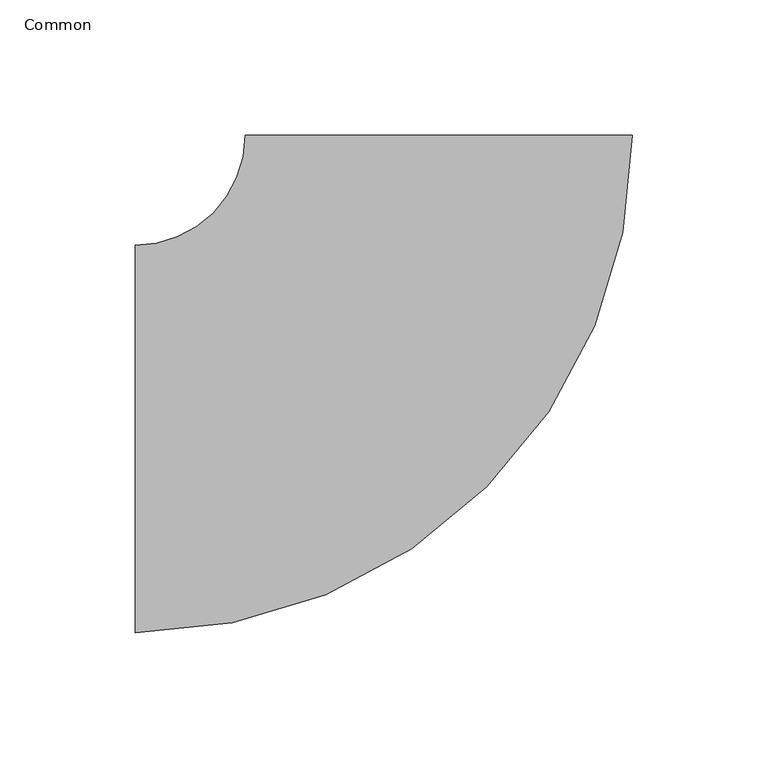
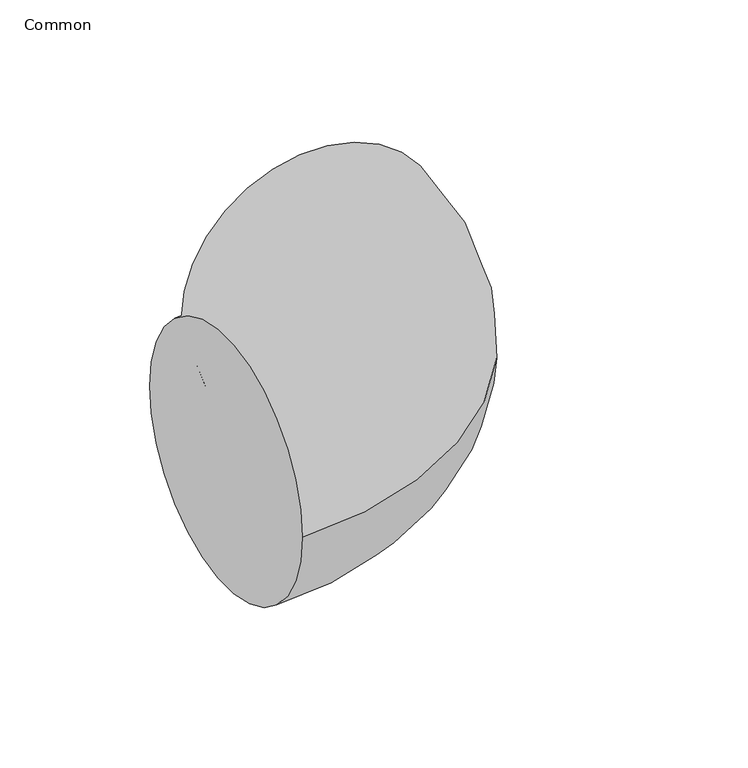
"""IFC4 building model written with IfcOpenShell, lengths in millimetres: pipe fitting geometry, 011_エルボ : Common."""

from ifc_helpers import new_model, si_unit, point, frame, origin, place, context, project, spatial, circle_curve, ellipse_curve, trimmed, source, transform, mapped, element, save
from ifc_brep_helpers import plane_surface, revolved_surface, advanced_brep


def common_a5969855(model_context):
    return source(origin(), model_context, "Body", "AdvancedBrep", [
        advanced_brep(
        [(-112.0, -71.5, 0.0), (-112.0, 71.5, 0.0), (71.5, 112.0, 0.0), (-71.5, 112.0, 0.0)],
        [
            (0, 1, circle_curve(frame((-112.0, 0.0, 0.0), z_axis=(-1.0, 0.0, 0.0), x_axis=(0.0, 1.0, 0.0)), 71.5)),
            (1, 0, circle_curve(frame((-112.0, 0.0, 0.0), z_axis=(-1.0, 0.0, 0.0), x_axis=(0.0, 1.0, 0.0)), 71.5)),
            (2, 3, circle_curve(frame((0.0, 112.0, 0.0), z_axis=(0.0, 1.0, 0.0), x_axis=(-1.0, 0.0, 0.0)), 71.5)),
            (3, 2, circle_curve(frame((0.0, 112.0, 0.0), z_axis=(0.0, 1.0, 0.0), x_axis=(-1.0, 0.0, 0.0)), 71.5)),
            (3, 1, circle_curve(frame((-112.0, 112.0, 0.0), z_axis=(0.0, 0.0, -1.0), x_axis=(0.0, -1.0, 0.0)), 40.5)),
            (0, 2, circle_curve(frame((-112.0, 112.0, 0.0), z_axis=(0.0, 0.0, 1.0), x_axis=(0.0, -1.0, 0.0)), 183.5)),
        ],
        [
            plane_surface(frame((-112.0, 0.0, 0.0), z_axis=(-1.0, 0.0, 0.0), x_axis=(0.0, 0.0, 1.0))),
            plane_surface(frame((0.0, 112.0, 0.0), z_axis=(0.0, 1.0, 0.0), x_axis=(0.0, 0.0, 1.0))),
            revolved_surface(trimmed(ellipse_curve(frame((-112.0, 0.0, 0.0), z_axis=(-1.0, 0.0, 0.0), x_axis=(0.0, 1.0, 0.0)), 71.5, 71.5), [point((-112.0, -71.5, 0.0))], [point((-112.0, 71.5, 0.0))], True, "CARTESIAN"), (-112.0, 112.0, 0.0), (0.0, 0.0, 1.0)),
            revolved_surface(trimmed(ellipse_curve(frame((-112.0, 0.0, 0.0), z_axis=(-1.0, 0.0, 0.0), x_axis=(0.0, 1.0, 0.0)), 71.5, 71.5), [point((-112.0, 71.5, 0.0))], [point((-112.0, -71.5, 0.0))], True, "CARTESIAN"), (-112.0, 112.0, 0.0), (0.0, 0.0, 1.0)),
        ],
        [
            (0, [[1, 2]]),
            (1, [[3, 4]]),
            (2, [[5, -1, 6, -4]]),
            (3, [[-6, -2, -5, -3]]),
        ],
    ),
    ])


if __name__ == "__main__":
    model = new_model("IFC4")
    model_context = context("Model", 3, world=origin())
    ifc_project = project(units=[si_unit("LENGTHUNIT", "METRE", prefix="MILLI")], contexts=[model_context])
    site = spatial("IfcSite", under=ifc_project)
    building = spatial("IfcBuilding", under=site)
    placement = place(None, origin())
    common_shape = common_a5969855(model_context)
    element("IfcPipeFitting", 1, ObjectType="011_エルボ : Common", at=placement, inside=building, context=model_context, shape_type="MappedRepresentation", body=[
        mapped(common_shape, transform((0.0, 0.0, 0.0), x_axis=(1.0, 0.0, 0.0), y_axis=(0.0, 1.0, 0.0), z_axis=(0.0, 0.0, 1.0))),
    ])
    save(model, "model.ifc")
